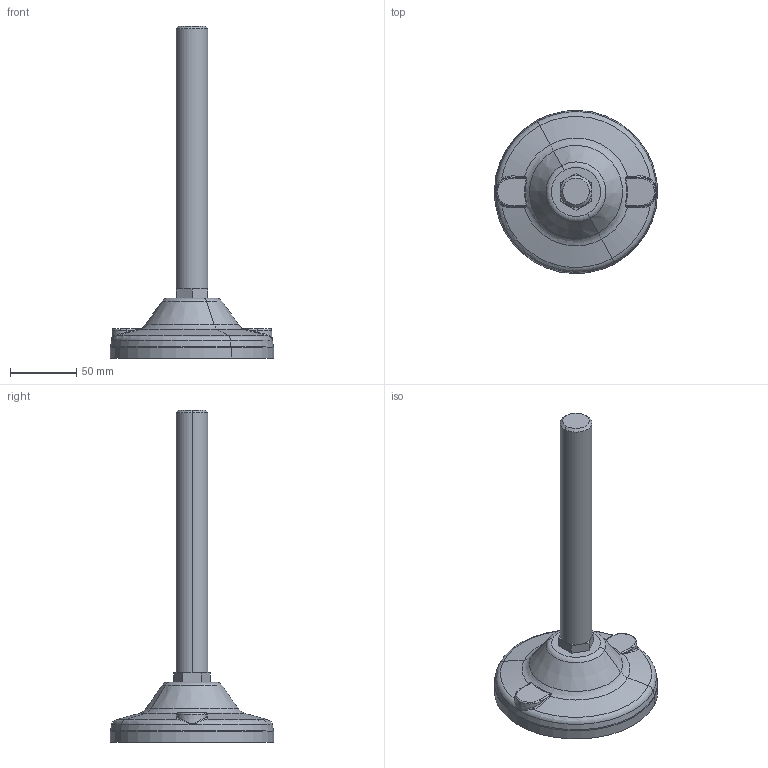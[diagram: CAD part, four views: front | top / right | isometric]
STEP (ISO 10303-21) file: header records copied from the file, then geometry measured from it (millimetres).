
FILE_DESCRIPTION(('STEP AP214'),'1');
FILE_NAME('98203H_01','2017-03-31T14:24:23',('dentellad'),(' '),'Spatial InterOp 3D',' ',' ');
FILE_SCHEMA(('automotive_design'));
Length unit declared in the file: millimetre
Products named in the file (1): 1
Bounding box: 122.97 x 122.97 x 250 mm (x, y, z)
Volume: 391552.5 mm3; surface area: 47187.6 mm2
Topology: 1 solids, 1 shells, 73 faces, 162 edges, 92 vertices
Faces by surface type: plane 21, bspline 18, torus 14, cone 12, cylinder 8
Entity records: 4715 total; most frequent: CARTESIAN_POINT 1844, ORIENTED_EDGE 324, DIRECTION 284, STYLED_ITEM 229, PRESENTATION_STYLE_ASSIGNMENT 229, COLOUR_RGB 229, EDGE_CURVE 162, CURVE_STYLE 155
